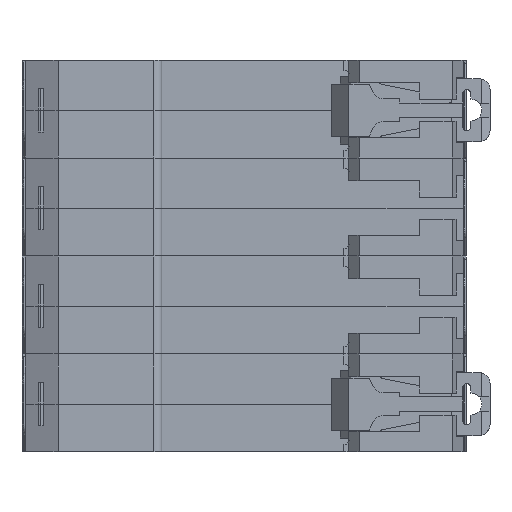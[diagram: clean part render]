
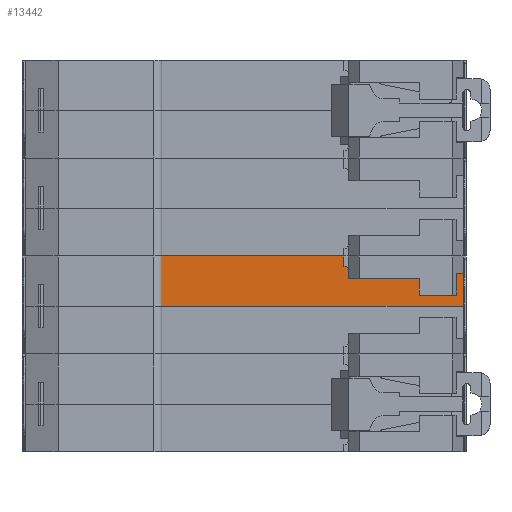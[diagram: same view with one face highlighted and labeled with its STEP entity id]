
A CAD part, front view. The second image highlights one B-rep face of the part: STEP entity #13442.
In plain terms, the highlighted planar face has unit normal (0, -1, 0).
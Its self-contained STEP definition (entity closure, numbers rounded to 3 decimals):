
#790 = VECTOR ( 'NONE', #19737, 1000. ) ;
#1074 = DIRECTION ( 'NONE',  ( 0.952, 0., 0.305 ) ) ;
#2161 = DIRECTION ( 'NONE',  ( 0.848, 0., 0.53 ) ) ;
#2245 = VERTEX_POINT ( 'NONE', #55619 ) ;
#2892 = CARTESIAN_POINT ( 'NONE',  ( 22.2, -55., 7.3 ) ) ;
#2922 = EDGE_CURVE ( 'NONE', #42924, #47449, #22223, .T. ) ;
#3621 = ORIENTED_EDGE ( 'NONE', *, *, #38253, .F. ) ;
#4002 = VECTOR ( 'NONE', #1074, 1000. ) ;
#5044 = EDGE_CURVE ( 'NONE', #12578, #23204, #13097, .T. ) ;
#5156 = LINE ( 'NONE', #33908, #790 ) ;
#5578 = DIRECTION ( 'NONE',  ( 0.887, 0., -0.461 ) ) ;
#6409 = CARTESIAN_POINT ( 'NONE',  ( 26.5, -55., 7.3 ) ) ;
#6529 = VECTOR ( 'NONE', #17795, 1000. ) ;
#7169 = CARTESIAN_POINT ( 'NONE',  ( 23.5, -55., 6.3 ) ) ;
#7253 = DIRECTION ( 'NONE',  ( 1., 0., 0. ) ) ;
#8498 = CARTESIAN_POINT ( 'NONE',  ( 0., -55., 9.15 ) ) ;
#8516 = LINE ( 'NONE', #54849, #33139 ) ;
#8887 = DIRECTION ( 'NONE',  ( 0., 0., 1. ) ) ;
#9352 = LINE ( 'NONE', #6409, #33285 ) ;
#9369 = CARTESIAN_POINT ( 'NONE',  ( 44., -55., 6. ) ) ;
#9840 = ORIENTED_EDGE ( 'NONE', *, *, #11162, .F. ) ;
#10697 = CARTESIAN_POINT ( 'NONE',  ( 31.7, -55., 7.3 ) ) ;
#10725 = VERTEX_POINT ( 'NONE', #13983 ) ;
#10840 = VERTEX_POINT ( 'NONE', #10697 ) ;
#11162 = EDGE_CURVE ( 'NONE', #48932, #59598, #25726, .T. ) ;
#11495 = VECTOR ( 'NONE', #57508, 1000. ) ;
#11656 = CARTESIAN_POINT ( 'NONE',  ( 25.7, -55., 6.8 ) ) ;
#12309 = VERTEX_POINT ( 'NONE', #30100 ) ;
#12578 = VERTEX_POINT ( 'NONE', #31658 ) ;
#13097 = LINE ( 'NONE', #2892, #23265 ) ;
#13442 = ADVANCED_FACE ( 'NONE', ( #20139 ), #43244, .T. ) ;
#13688 = CARTESIAN_POINT ( 'NONE',  ( 34.2, -55., 6. ) ) ;
#13868 = EDGE_CURVE ( 'NONE', #10840, #17399, #38106, .T. ) ;
#13925 = VERTEX_POINT ( 'NONE', #7169 ) ;
#13983 = CARTESIAN_POINT ( 'NONE',  ( 25.7, -55., 6.8 ) ) ;
#14591 = VERTEX_POINT ( 'NONE', #15987 ) ;
#14660 = ORIENTED_EDGE ( 'NONE', *, *, #31071, .F. ) ;
#15933 = CARTESIAN_POINT ( 'NONE',  ( -13.5, -55., 7.05 ) ) ;
#15987 = CARTESIAN_POINT ( 'NONE',  ( 22.2, -55., 9.15 ) ) ;
#17312 = LINE ( 'NONE', #38719, #11495 ) ;
#17399 = VERTEX_POINT ( 'NONE', #53555 ) ;
#17795 = DIRECTION ( 'NONE',  ( 1., 0., 0. ) ) ;
#18597 = LINE ( 'NONE', #52802, #58408 ) ;
#19271 = DIRECTION ( 'NONE',  ( 1., 0., 0. ) ) ;
#19592 = CARTESIAN_POINT ( 'NONE',  ( 29.2, -55., 6.5 ) ) ;
#19737 = DIRECTION ( 'NONE',  ( 0., 0., 1. ) ) ;
#20139 = FACE_OUTER_BOUND ( 'NONE', #33111, .T. ) ;
#21704 = EDGE_CURVE ( 'NONE', #17399, #2245, #50022, .T. ) ;
#22128 = CARTESIAN_POINT ( 'NONE',  ( 26.5, -55., 7.3 ) ) ;
#22223 = LINE ( 'NONE', #19592, #42438 ) ;
#23204 = VERTEX_POINT ( 'NONE', #39508 ) ;
#23265 = VECTOR ( 'NONE', #30247, 1000. ) ;
#23785 = VERTEX_POINT ( 'NONE', #59951 ) ;
#24159 = ORIENTED_EDGE ( 'NONE', *, *, #25285, .F. ) ;
#24502 = LINE ( 'NONE', #30556, #36789 ) ;
#25285 = EDGE_CURVE ( 'NONE', #23785, #10725, #31353, .T. ) ;
#25389 = DIRECTION ( 'NONE',  ( 0.625, 0., -0.781 ) ) ;
#25726 = LINE ( 'NONE', #31751, #48832 ) ;
#26893 = VECTOR ( 'NONE', #19271, 1000. ) ;
#29467 = ORIENTED_EDGE ( 'NONE', *, *, #45311, .F. ) ;
#30100 = CARTESIAN_POINT ( 'NONE',  ( 44., -55., 0. ) ) ;
#30247 = DIRECTION ( 'NONE',  ( -1., 0., 0. ) ) ;
#30556 = CARTESIAN_POINT ( 'NONE',  ( 25.7, -55., 6.3 ) ) ;
#30905 = DIRECTION ( 'NONE',  ( 0., 0., 1. ) ) ;
#31071 = EDGE_CURVE ( 'NONE', #12578, #13925, #18597, .T. ) ;
#31189 = LINE ( 'NONE', #8498, #6529 ) ;
#31353 = LINE ( 'NONE', #11656, #50101 ) ;
#31549 = ORIENTED_EDGE ( 'NONE', *, *, #52508, .F. ) ;
#31658 = CARTESIAN_POINT ( 'NONE',  ( 22.7, -55., 7.3 ) ) ;
#31751 = CARTESIAN_POINT ( 'NONE',  ( -13.5, -55., 7.05 ) ) ;
#32769 = ORIENTED_EDGE ( 'NONE', *, *, #21704, .F. ) ;
#33001 = LINE ( 'NONE', #47192, #4002 ) ;
#33111 = EDGE_LOOP ( 'NONE', ( #3621, #14660, #40646, #43902, #31549, #9840, #59916, #40382, #32769, #56417, #39384, #55645, #29467, #24159 ) ) ;
#33139 = VECTOR ( 'NONE', #40927, 1000. ) ;
#33285 = VECTOR ( 'NONE', #2161, 1000. ) ;
#33908 = CARTESIAN_POINT ( 'NONE',  ( 44., -55., 7.05 ) ) ;
#34374 = EDGE_CURVE ( 'NONE', #48932, #12309, #8516, .T. ) ;
#34931 = CARTESIAN_POINT ( 'NONE',  ( 29.2, -55., 6.5 ) ) ;
#36789 = VECTOR ( 'NONE', #7253, 1000. ) ;
#37778 = AXIS2_PLACEMENT_3D ( 'NONE', #15933, #48297, #52304 ) ;
#38106 = LINE ( 'NONE', #13688, #57663 ) ;
#38253 = EDGE_CURVE ( 'NONE', #13925, #23785, #24502, .T. ) ;
#38719 = CARTESIAN_POINT ( 'NONE',  ( 22.2, -55., 7.05 ) ) ;
#39007 = CARTESIAN_POINT ( 'NONE',  ( -13.5, -55., 0. ) ) ;
#39313 = EDGE_CURVE ( 'NONE', #47449, #10840, #33001, .T. ) ;
#39384 = ORIENTED_EDGE ( 'NONE', *, *, #39313, .F. ) ;
#39508 = CARTESIAN_POINT ( 'NONE',  ( 22.2, -55., 7.3 ) ) ;
#40382 = ORIENTED_EDGE ( 'NONE', *, *, #44082, .T. ) ;
#40646 = ORIENTED_EDGE ( 'NONE', *, *, #5044, .T. ) ;
#40927 = DIRECTION ( 'NONE',  ( 1., 0., 0. ) ) ;
#42438 = VECTOR ( 'NONE', #57132, 1000. ) ;
#42924 = VERTEX_POINT ( 'NONE', #22128 ) ;
#43244 = PLANE ( 'NONE',  #37778 ) ;
#43902 = ORIENTED_EDGE ( 'NONE', *, *, #45635, .T. ) ;
#44082 = EDGE_CURVE ( 'NONE', #12309, #2245, #5156, .T. ) ;
#45311 = EDGE_CURVE ( 'NONE', #10725, #42924, #9352, .T. ) ;
#45635 = EDGE_CURVE ( 'NONE', #23204, #14591, #17312, .T. ) ;
#47192 = CARTESIAN_POINT ( 'NONE',  ( 31.7, -55., 7.3 ) ) ;
#47449 = VERTEX_POINT ( 'NONE', #34931 ) ;
#47450 = CARTESIAN_POINT ( 'NONE',  ( -13.5, -55., 9.15 ) ) ;
#48297 = DIRECTION ( 'NONE',  ( 0., -1., 0. ) ) ;
#48832 = VECTOR ( 'NONE', #8887, 1000. ) ;
#48932 = VERTEX_POINT ( 'NONE', #39007 ) ;
#50022 = LINE ( 'NONE', #9369, #26893 ) ;
#50101 = VECTOR ( 'NONE', #30905, 1000. ) ;
#52304 = DIRECTION ( 'NONE',  ( 0., 0., -1. ) ) ;
#52508 = EDGE_CURVE ( 'NONE', #59598, #14591, #31189, .T. ) ;
#52802 = CARTESIAN_POINT ( 'NONE',  ( 23.5, -55., 6.3 ) ) ;
#53555 = CARTESIAN_POINT ( 'NONE',  ( 34.2, -55., 6. ) ) ;
#54849 = CARTESIAN_POINT ( 'NONE',  ( 29.8, -55., 0. ) ) ;
#55619 = CARTESIAN_POINT ( 'NONE',  ( 44., -55., 6. ) ) ;
#55645 = ORIENTED_EDGE ( 'NONE', *, *, #2922, .F. ) ;
#56417 = ORIENTED_EDGE ( 'NONE', *, *, #13868, .F. ) ;
#57132 = DIRECTION ( 'NONE',  ( 0.959, 0., -0.284 ) ) ;
#57508 = DIRECTION ( 'NONE',  ( 0., 0., 1. ) ) ;
#57663 = VECTOR ( 'NONE', #5578, 1000. ) ;
#58408 = VECTOR ( 'NONE', #25389, 1000. ) ;
#59598 = VERTEX_POINT ( 'NONE', #47450 ) ;
#59916 = ORIENTED_EDGE ( 'NONE', *, *, #34374, .T. ) ;
#59951 = CARTESIAN_POINT ( 'NONE',  ( 25.7, -55., 6.3 ) ) ;
